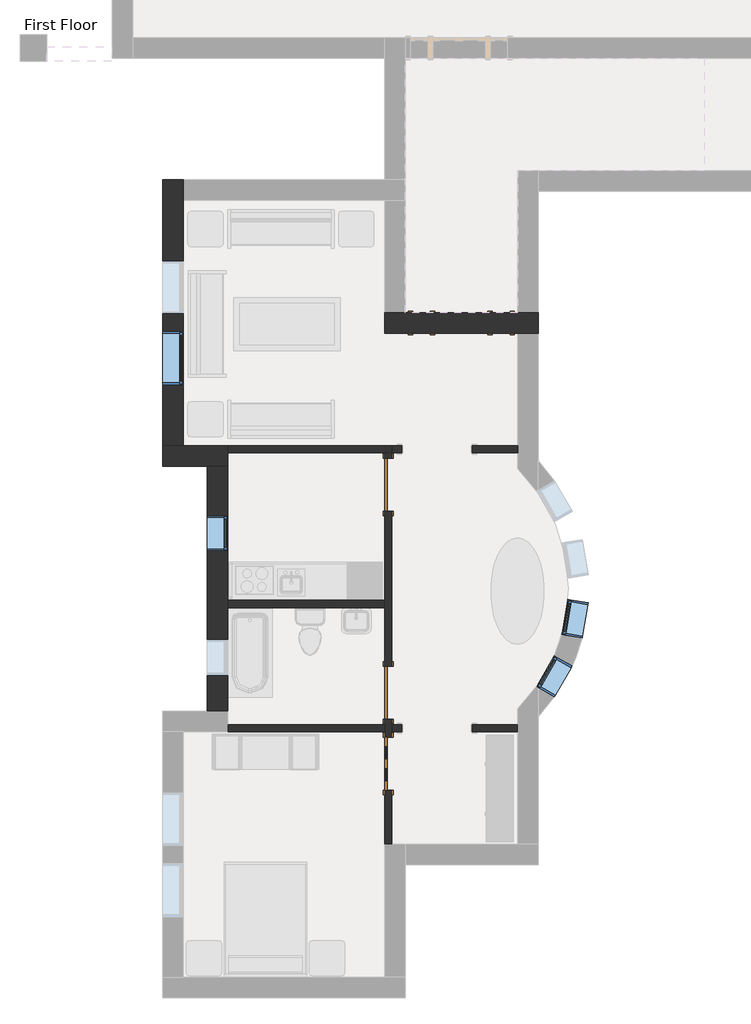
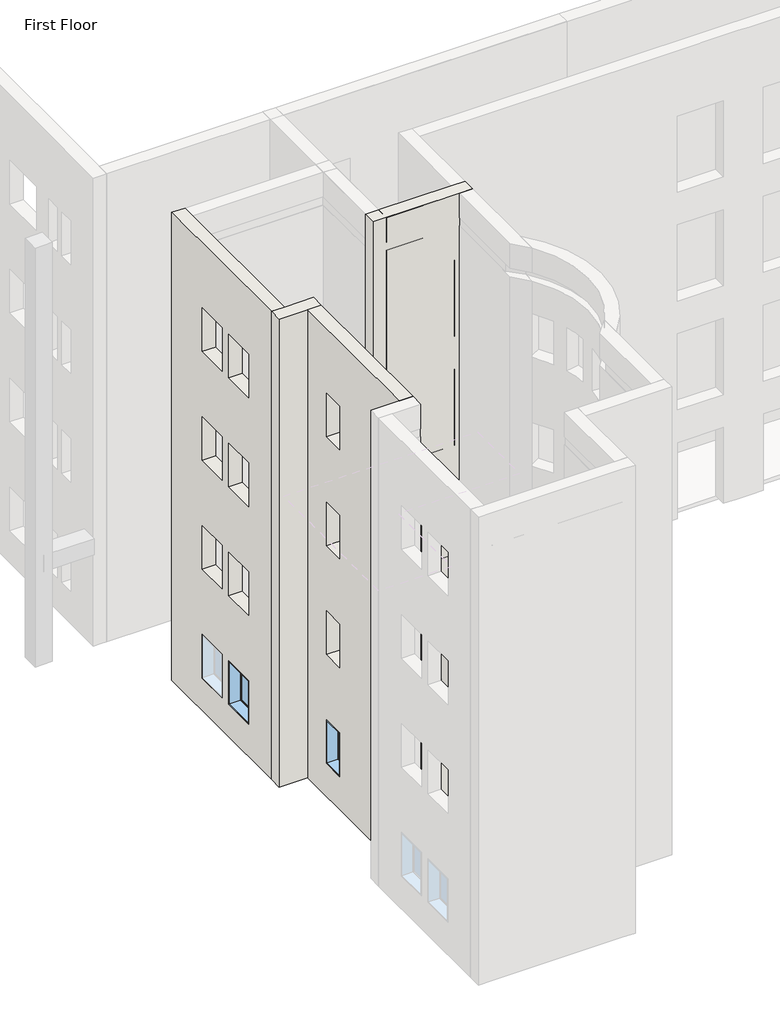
# One storey, part 9 of 24: 11 walls, 4 doors, 4 windows.
"""IFC4 building model written with IfcOpenShell, lengths in millimetres."""

from ifc_helpers import new_model, si_unit, frame, origin, origin_with_axes, place, context, project, spatial, polyline, outline, extrude, faceted_brep, transform, mapped, element, save
from components import door_2e3b4da2, door_a1797ceb, door_a3eb833a, door_dba5aa2e, window_60baf983, window_15c49d37

model = new_model("IFC4")

# Units and contexts
model_context = context("Model", 3, world=origin())
ifc_project = project(units=[si_unit("LENGTHUNIT", "METRE", prefix="MILLI")], contexts=[model_context])

# Site, building, storey
site = spatial("IfcSite", under=ifc_project)
building = spatial("IfcBuilding", under=site)
storey = spatial("IfcBuildingStorey", under=building, Name="First Floor", Elevation=0.0)

# Doors
placement = place(None, origin())
door_shape = door_2e3b4da2(model_context)
element("IfcDoor", 1, ObjectType="Single-Decorative 2 : 36\" x 84\"", at=placement, inside=storey, context=model_context, shape_type="MappedRepresentation", body=[
    mapped(door_shape, transform((-26096.8839563, -7954.4808133, 0.0), x_axis=(0.0, 1.0, 0.0), y_axis=(-1.0, 0.0, 0.0), z_axis=(0.0, 0.0, 1.0))),
])
door_2_shape = door_a1797ceb(model_context)
element("IfcDoor", 2, ObjectType="Single-Flush : 36\" x 84\"", at=placement, inside=storey, context=model_context, shape_type="MappedRepresentation", body=[
    mapped(door_2_shape, transform((-26096.8839563, -3157.0558133, 0.0), x_axis=(0.0, 1.0, 0.0), y_axis=(-1.0, 0.0, 0.0), z_axis=(0.0, 0.0, 1.0))),
])
door_3_shape = door_a3eb833a(model_context)
element("IfcDoor", 3, ObjectType="Single-Flush : 36\" x 84\"", at=placement, inside=storey, context=model_context, shape_type="MappedRepresentation", body=[
    mapped(door_3_shape, transform((-26096.8839563, -6735.2808133, 0.0), x_axis=(0.0, -1.0, 0.0), y_axis=(1.0, 0.0, 0.0), z_axis=(0.0, 0.0, 1.0))),
])
door_4_shape = door_dba5aa2e(model_context)
element("IfcDoor", 4, ObjectType="Single-Raised Panel with Sidelights : 36\" x 84\"", at=placement, inside=storey, context=model_context, shape_type="MappedRepresentation", body=[
    mapped(door_4_shape, transform((-24841.1714563, -374.1683133, 0.0), x_axis=(1.0, 0.0, 0.0), y_axis=(0.0, 1.0, 0.0), z_axis=(0.0, 0.0, 1.0))),
])

# Walls
element("IfcWall", 5, ObjectType="Exterior - Brick on Mtl. Stud", at=placement, inside=storey, context=model_context, shape_type="Brep", body=[
    faceted_brep([(-26160.3839563, -550.3808133, 0.0), (-23874.3839563, -550.3808133, 0.0), (-23521.9589563, -550.3808133, 0.0), (-23521.9589563, -550.3808133, 13106.4), (-23874.3839563, -550.3808133, 13106.4), (-26160.3839563, -550.3808133, 13106.4), (-26160.3839563, -197.9558133, 0.0), (-26160.3839563, -197.9558133, 12192.0), (-26160.3839563, -197.9558133, 12420.6), (-26160.3839563, -197.9558133, 13106.4), (-25807.9589563, -197.9558133, 13106.4), (-23874.3839563, -197.9558133, 13106.4), (-23521.9589563, -197.9558133, 13106.4), (-23521.9589563, -197.9558133, 0.0), (-23874.3839563, -197.9558133, 0.0), (-25807.9589563, -197.9558133, 0.0)], [[[0, 1, 2, 3, 4, 5]], [[6, 7, 8, 9, 10, 11, 12, 13, 14, 15]], [[2, 1, 0, 6, 15, 14, 13]], [[5, 4, 3, 12, 11, 10, 9]], [[3, 2, 13, 12]], [[0, 5, 9, 8, 7, 6]]]),
])
element("IfcWall", 6, ObjectType="Exterior - Brick on Mtl. Stud", at=placement, inside=storey, context=model_context, shape_type="Brep", body=[
    faceted_brep([(-23874.3839563, -550.3808133, 13106.4), (-25807.9589563, -550.3808133, 13106.4), (-25807.9589563, -550.3808133, 12420.6), (-23874.3839563, -550.3808133, 12420.6), (-24002.9714563, -550.3808133, 2133.6), (-24002.9714563, -550.3808133, 0.0), (-23874.3839563, -550.3808133, 0.0), (-23874.3839563, -550.3808133, 12192.0), (-25807.9589563, -550.3808133, 12192.0), (-25807.9589563, -550.3808133, 0.0), (-25679.3714563, -550.3808133, 0.0), (-25679.3714563, -550.3808133, 2133.6), (-24002.9714563, -550.3808133, 9144.0), (-25679.3714563, -550.3808133, 9144.0), (-25679.3714563, -550.3808133, 11277.6), (-24002.9714563, -550.3808133, 11277.6), (-24002.9714563, -550.3808133, 3048.0), (-25679.3714563, -550.3808133, 3048.0), (-25679.3714563, -550.3808133, 5181.6), (-24002.9714563, -550.3808133, 5181.6), (-24002.9714563, -550.3808133, 6096.0), (-25679.3714563, -550.3808133, 6096.0), (-25679.3714563, -550.3808133, 8229.6), (-24002.9714563, -550.3808133, 8229.6), (-25807.9589563, -197.9558133, 13106.4), (-23874.3839563, -197.9558133, 13106.4), (-23874.3839563, -197.9558133, 0.0), (-24002.9714563, -197.9558133, 0.0), (-24002.9714563, -197.9558133, 2133.6), (-25679.3714563, -197.9558133, 2133.6), (-25679.3714563, -197.9558133, 0.0), (-25807.9589563, -197.9558133, 0.0), (-25679.3714563, -197.9558133, 9144.0), (-24002.9714563, -197.9558133, 9144.0), (-24002.9714563, -197.9558133, 11277.6), (-25679.3714563, -197.9558133, 11277.6), (-25679.3714563, -197.9558133, 3048.0), (-24002.9714563, -197.9558133, 3048.0), (-24002.9714563, -197.9558133, 5181.6), (-25679.3714563, -197.9558133, 5181.6), (-25679.3714563, -197.9558133, 6096.0), (-24002.9714563, -197.9558133, 6096.0), (-24002.9714563, -197.9558133, 8229.6), (-25679.3714563, -197.9558133, 8229.6), (-23874.3839563, -537.6808133, 12420.6), (-23874.3839563, -537.6808133, 12192.0), (-25807.9589563, -537.6808133, 12192.0), (-25807.9589563, -537.6808133, 12420.6)], [[[0, 1, 2, 3]], [[4, 5, 6, 7, 8, 9, 10, 11], [12, 13, 14, 15], [16, 17, 18, 19], [20, 21, 22, 23]], [[24, 25, 26, 27, 28, 29, 30, 31], [32, 33, 34, 35], [36, 37, 38, 39], [40, 41, 42, 43]], [[26, 6, 5, 27]], [[9, 31, 30, 10]], [[1, 0, 25, 24]], [[6, 26, 25, 0, 3, 44, 45, 7]], [[1, 24, 31, 9, 8, 46, 47, 2]], [[28, 27, 5, 4]], [[29, 28, 4, 11]], [[30, 29, 11, 10]], [[33, 32, 13, 12]], [[34, 33, 12, 15]], [[35, 34, 15, 14]], [[32, 35, 14, 13]], [[37, 36, 17, 16]], [[38, 37, 16, 19]], [[39, 38, 19, 18]], [[36, 39, 18, 17]], [[41, 40, 21, 20]], [[42, 41, 20, 23]], [[43, 42, 23, 22]], [[40, 43, 22, 21]], [[45, 46, 8, 7]], [[47, 44, 3, 2]], [[46, 45, 44, 47]]]),
])
element("IfcWall", 7, ObjectType="Exterior - Brick on Mtl. Stud", at=placement, inside=storey, context=model_context, shape_type="Brep", body=[
    faceted_brep([(-28855.9589563, -7055.9558133, 0.0), (-28855.9589563, -5274.7808133, 0.0), (-28855.9589563, -5147.7808133, 0.0), (-28855.9589563, -2836.3808133, 0.0), (-28855.9589563, -2836.3808133, 12192.0), (-28855.9589563, -5147.7808133, 12192.0), (-28855.9589563, -5274.7808133, 12192.0), (-28855.9589563, -7055.9558133, 12192.0), (-28855.9589563, -6430.4808133, 7010.4), (-28855.9589563, -6430.4808133, 8229.6), (-28855.9589563, -5820.8808133, 8229.6), (-28855.9589563, -5820.8808133, 7010.4), (-28855.9589563, -4296.8808133, 7010.4), (-28855.9589563, -4296.8808133, 8229.6), (-28855.9589563, -3687.2808133, 8229.6), (-28855.9589563, -3687.2808133, 7010.4), (-28855.9589563, -6430.4808133, 3962.4), (-28855.9589563, -6430.4808133, 5181.6), (-28855.9589563, -5820.8808133, 5181.6), (-28855.9589563, -5820.8808133, 3962.4), (-28855.9589563, -4296.8808133, 3962.4), (-28855.9589563, -4296.8808133, 5181.6), (-28855.9589563, -3687.2808133, 5181.6), (-28855.9589563, -3687.2808133, 3962.4), (-28855.9589563, -6430.4808133, 10058.4), (-28855.9589563, -6430.4808133, 11277.6), (-28855.9589563, -5820.8808133, 11277.6), (-28855.9589563, -5820.8808133, 10058.4), (-28855.9589563, -4296.8808133, 10058.4), (-28855.9589563, -4296.8808133, 11277.6), (-28855.9589563, -3687.2808133, 11277.6), (-28855.9589563, -3687.2808133, 10058.4), (-28855.9589563, -6430.4808133, 914.4), (-28855.9589563, -6430.4808133, 2133.6), (-28855.9589563, -5820.8808133, 2133.6), (-28855.9589563, -5820.8808133, 914.4), (-28855.9589563, -4296.8808133, 914.4), (-28855.9589563, -4296.8808133, 2133.6), (-28855.9589563, -3687.2808133, 2133.6), (-28855.9589563, -3687.2808133, 914.4), (-28855.9589563, -2836.3808133, 13106.4), (-28855.9589563, -7055.9558133, 13106.4), (-28855.9589563, -7055.9558133, 12420.6), (-28855.9589563, -2836.3808133, 12420.6), (-29208.3839563, -2836.3808133, 0.0), (-29208.3839563, -7055.9558133, 0.0), (-29208.3839563, -7055.9558133, 13106.4), (-29208.3839563, -2836.3808133, 13106.4), (-29208.3839563, -6430.4808133, 8229.6), (-29208.3839563, -6430.4808133, 7010.4), (-29208.3839563, -5820.8808133, 7010.4), (-29208.3839563, -5820.8808133, 8229.6), (-29208.3839563, -4296.8808133, 8229.6), (-29208.3839563, -4296.8808133, 7010.4), (-29208.3839563, -3687.2808133, 7010.4), (-29208.3839563, -3687.2808133, 8229.6), (-29208.3839563, -6430.4808133, 5181.6), (-29208.3839563, -6430.4808133, 3962.4), (-29208.3839563, -5820.8808133, 3962.4), (-29208.3839563, -5820.8808133, 5181.6), (-29208.3839563, -4296.8808133, 5181.6), (-29208.3839563, -4296.8808133, 3962.4), (-29208.3839563, -3687.2808133, 3962.4), (-29208.3839563, -3687.2808133, 5181.6), (-29208.3839563, -6430.4808133, 11277.6), (-29208.3839563, -6430.4808133, 10058.4), (-29208.3839563, -5820.8808133, 10058.4), (-29208.3839563, -5820.8808133, 11277.6), (-29208.3839563, -4296.8808133, 11277.6), (-29208.3839563, -4296.8808133, 10058.4), (-29208.3839563, -3687.2808133, 10058.4), (-29208.3839563, -3687.2808133, 11277.6), (-29208.3839563, -6430.4808133, 2133.6), (-29208.3839563, -6430.4808133, 914.4), (-29208.3839563, -5820.8808133, 914.4), (-29208.3839563, -5820.8808133, 2133.6), (-29208.3839563, -4296.8808133, 2133.6), (-29208.3839563, -4296.8808133, 914.4), (-29208.3839563, -3687.2808133, 914.4), (-29208.3839563, -3687.2808133, 2133.6), (-28868.6589563, -7055.9558133, 12192.0), (-28868.6589563, -7055.9558133, 12420.6), (-28868.6589563, -2836.3808133, 12420.6), (-28868.6589563, -2836.3808133, 12192.0)], [[[0, 1, 2, 3, 4, 5, 6, 7], [8, 9, 10, 11], [12, 13, 14, 15], [16, 17, 18, 19], [20, 21, 22, 23], [24, 25, 26, 27], [28, 29, 30, 31], [32, 33, 34, 35], [36, 37, 38, 39]], [[40, 41, 42, 43]], [[44, 45, 46, 47], [48, 49, 50, 51], [52, 53, 54, 55], [56, 57, 58, 59], [60, 61, 62, 63], [64, 65, 66, 67], [68, 69, 70, 71], [72, 73, 74, 75], [76, 77, 78, 79]], [[3, 2, 1, 0, 45, 44]], [[41, 40, 47, 46]], [[41, 46, 45, 0, 7, 80, 81, 42]], [[3, 44, 47, 40, 43, 82, 83, 4]], [[49, 48, 9, 8]], [[50, 49, 8, 11]], [[51, 50, 11, 10]], [[48, 51, 10, 9]], [[53, 52, 13, 12]], [[54, 53, 12, 15]], [[55, 54, 15, 14]], [[52, 55, 14, 13]], [[57, 56, 17, 16]], [[58, 57, 16, 19]], [[59, 58, 19, 18]], [[56, 59, 18, 17]], [[61, 60, 21, 20]], [[62, 61, 20, 23]], [[63, 62, 23, 22]], [[60, 63, 22, 21]], [[65, 64, 25, 24]], [[66, 65, 24, 27]], [[67, 66, 27, 26]], [[64, 67, 26, 25]], [[69, 68, 29, 28]], [[70, 69, 28, 31]], [[71, 70, 31, 30]], [[68, 71, 30, 29]], [[73, 72, 33, 32]], [[74, 73, 32, 35]], [[75, 74, 35, 34]], [[72, 75, 34, 33]], [[77, 76, 37, 36]], [[78, 77, 36, 39]], [[79, 78, 39, 38]], [[76, 79, 38, 37]], [[83, 80, 7, 6, 5, 4]], [[81, 82, 43, 42]], [[80, 83, 82, 81]]]),
])
element("IfcWall", 8, ObjectType="Exterior - Brick on Mtl. Stud", at=placement, inside=storey, context=model_context, shape_type="Brep", body=[
    faceted_brep([(-28855.9589563, -2483.9558133, 0.0), (-29617.9589563, -2483.9558133, 0.0), (-29970.3839563, -2483.9558133, 0.0), (-29970.3839563, -2483.9558133, 13106.4), (-29617.9589563, -2483.9558133, 13106.4), (-28855.9589563, -2483.9558133, 13106.4), (-28855.9589563, -2483.9558133, 12420.6), (-29617.9589563, -2483.9558133, 12420.6), (-29630.6589563, -2483.9558133, 12420.6), (-29630.6589563, -2483.9558133, 12192.0), (-29617.9589563, -2483.9558133, 12192.0), (-28855.9589563, -2483.9558133, 12192.0), (-28855.9589563, -2483.9558133, 9144.0), (-28855.9589563, -2483.9558133, 6096.0), (-28855.9589563, -2483.9558133, 3048.0), (-29970.3839563, -2836.3808133, 0.0), (-29208.3839563, -2836.3808133, 0.0), (-28855.9589563, -2836.3808133, 0.0), (-28855.9589563, -2836.3808133, 12192.0), (-28868.6589563, -2836.3808133, 12192.0), (-28868.6589563, -2836.3808133, 12420.6), (-28855.9589563, -2836.3808133, 12420.6), (-28855.9589563, -2836.3808133, 13106.4), (-29208.3839563, -2836.3808133, 13106.4), (-29970.3839563, -2836.3808133, 13106.4), (-28855.9589563, -2610.9558133, 0.0), (-28855.9589563, -2610.9558133, 12192.0), (-29630.6589563, -2496.6558133, 12192.0), (-28868.6589563, -2496.6558133, 12192.0), (-28868.6589563, -2496.6558133, 12420.6), (-29630.6589563, -2496.6558133, 12420.6)], [[[0, 1, 2, 3, 4, 5, 6, 7, 8, 9, 10, 11, 12, 13, 14]], [[15, 16, 17, 18, 19, 20, 21, 22, 23, 24]], [[2, 1, 0, 25, 17, 16, 15]], [[5, 4, 3, 24, 23, 22]], [[17, 25, 0, 14, 13, 12, 11, 26, 18]], [[5, 22, 21, 6]], [[3, 2, 15, 24]], [[27, 28, 19, 18, 26, 11, 10, 9]], [[29, 30, 8, 7, 6, 21, 20]], [[28, 29, 20, 19]], [[28, 27, 30, 29]], [[30, 27, 9, 8]]]),
])
element("IfcWall", 9, ObjectType="Exterior - Brick on Mtl. Stud", at=placement, inside=storey, context=model_context, shape_type="Brep", body=[
    faceted_brep([(-29617.9589563, -2483.9558133, 0.0), (-29617.9589563, 1735.6191867, 0.0), (-29617.9589563, 2088.0441867, 0.0), (-29617.9589563, 2088.0441867, 13106.4), (-29617.9589563, 1735.6191867, 13106.4), (-29617.9589563, -2483.9558133, 13106.4), (-29617.9589563, -2483.9558133, 12420.6), (-29617.9589563, 1735.6191867, 12420.6), (-29617.9589563, 1748.3191867, 12420.6), (-29617.9589563, 1748.3191867, 12192.0), (-29617.9589563, 1735.6191867, 12192.0), (-29617.9589563, -2483.9558133, 12192.0), (-29617.9589563, -221.7683133, 914.4), (-29617.9589563, -221.7683133, 2133.6), (-29617.9589563, 692.6316867, 2133.6), (-29617.9589563, 692.6316867, 914.4), (-29617.9589563, -1440.9683133, 914.4), (-29617.9589563, -1440.9683133, 2133.6), (-29617.9589563, -526.5683133, 2133.6), (-29617.9589563, -526.5683133, 914.4), (-29617.9589563, -221.7683133, 10058.4), (-29617.9589563, -221.7683133, 11277.6), (-29617.9589563, 692.6316867, 11277.6), (-29617.9589563, 692.6316867, 10058.4), (-29617.9589563, -1440.9683133, 10058.4), (-29617.9589563, -1440.9683133, 11277.6), (-29617.9589563, -526.5683133, 11277.6), (-29617.9589563, -526.5683133, 10058.4), (-29617.9589563, -221.7683133, 3962.4), (-29617.9589563, -221.7683133, 5181.6), (-29617.9589563, 692.6316867, 5181.6), (-29617.9589563, 692.6316867, 3962.4), (-29617.9589563, -1440.9683133, 3962.4), (-29617.9589563, -1440.9683133, 5181.6), (-29617.9589563, -526.5683133, 5181.6), (-29617.9589563, -526.5683133, 3962.4), (-29617.9589563, -221.7683133, 7010.4), (-29617.9589563, -221.7683133, 8229.6), (-29617.9589563, 692.6316867, 8229.6), (-29617.9589563, 692.6316867, 7010.4), (-29617.9589563, -1440.9683133, 7010.4), (-29617.9589563, -1440.9683133, 8229.6), (-29617.9589563, -526.5683133, 8229.6), (-29617.9589563, -526.5683133, 7010.4), (-29970.3839563, 2088.0441867, 0.0), (-29970.3839563, -2483.9558133, 0.0), (-29970.3839563, -2483.9558133, 13106.4), (-29970.3839563, 2088.0441867, 13106.4), (-29970.3839563, -221.7683133, 2133.6), (-29970.3839563, -221.7683133, 914.4), (-29970.3839563, 692.6316867, 914.4), (-29970.3839563, 692.6316867, 2133.6), (-29970.3839563, -1440.9683133, 2133.6), (-29970.3839563, -1440.9683133, 914.4), (-29970.3839563, -526.5683133, 914.4), (-29970.3839563, -526.5683133, 2133.6), (-29970.3839563, -221.7683133, 11277.6), (-29970.3839563, -221.7683133, 10058.4), (-29970.3839563, 692.6316867, 10058.4), (-29970.3839563, 692.6316867, 11277.6), (-29970.3839563, -1440.9683133, 11277.6), (-29970.3839563, -1440.9683133, 10058.4), (-29970.3839563, -526.5683133, 10058.4), (-29970.3839563, -526.5683133, 11277.6), (-29970.3839563, -221.7683133, 5181.6), (-29970.3839563, -221.7683133, 3962.4), (-29970.3839563, 692.6316867, 3962.4), (-29970.3839563, 692.6316867, 5181.6), (-29970.3839563, -1440.9683133, 5181.6), (-29970.3839563, -1440.9683133, 3962.4), (-29970.3839563, -526.5683133, 3962.4), (-29970.3839563, -526.5683133, 5181.6), (-29970.3839563, -221.7683133, 8229.6), (-29970.3839563, -221.7683133, 7010.4), (-29970.3839563, 692.6316867, 7010.4), (-29970.3839563, 692.6316867, 8229.6), (-29970.3839563, -1440.9683133, 8229.6), (-29970.3839563, -1440.9683133, 7010.4), (-29970.3839563, -526.5683133, 7010.4), (-29970.3839563, -526.5683133, 8229.6), (-29630.6589563, -2483.9558133, 12192.0), (-29630.6589563, -2483.9558133, 12420.6), (-29630.6589563, 1748.3191867, 12192.0), (-29630.6589563, 1748.3191867, 12420.6)], [[[0, 1, 2, 3, 4, 5, 6, 7, 8, 9, 10, 11], [12, 13, 14, 15], [16, 17, 18, 19], [20, 21, 22, 23], [24, 25, 26, 27], [28, 29, 30, 31], [32, 33, 34, 35], [36, 37, 38, 39], [40, 41, 42, 43]], [[44, 45, 46, 47], [48, 49, 50, 51], [52, 53, 54, 55], [56, 57, 58, 59], [60, 61, 62, 63], [64, 65, 66, 67], [68, 69, 70, 71], [72, 73, 74, 75], [76, 77, 78, 79]], [[2, 1, 0, 45, 44]], [[5, 4, 3, 47, 46]], [[3, 2, 44, 47]], [[5, 46, 45, 0, 11, 80, 81, 6]], [[49, 48, 13, 12]], [[50, 49, 12, 15]], [[51, 50, 15, 14]], [[48, 51, 14, 13]], [[53, 52, 17, 16]], [[54, 53, 16, 19]], [[55, 54, 19, 18]], [[52, 55, 18, 17]], [[57, 56, 21, 20]], [[58, 57, 20, 23]], [[59, 58, 23, 22]], [[56, 59, 22, 21]], [[61, 60, 25, 24]], [[62, 61, 24, 27]], [[63, 62, 27, 26]], [[60, 63, 26, 25]], [[65, 64, 29, 28]], [[66, 65, 28, 31]], [[67, 66, 31, 30]], [[64, 67, 30, 29]], [[69, 68, 33, 32]], [[70, 69, 32, 35]], [[71, 70, 35, 34]], [[68, 71, 34, 33]], [[73, 72, 37, 36]], [[74, 73, 36, 39]], [[75, 74, 39, 38]], [[72, 75, 38, 37]], [[77, 76, 41, 40]], [[78, 77, 40, 43]], [[79, 78, 43, 42]], [[76, 79, 42, 41]], [[9, 82, 80, 11, 10]], [[81, 83, 8, 7, 6]], [[82, 83, 81, 80]], [[83, 82, 9, 8]]]),
])
element("IfcWall", 10, ObjectType="Interior - 5\" Partition (2-hr)", at=placement, inside=storey, context=model_context, shape_type="Brep", body=[
    faceted_brep([(-28855.9589563, -2610.9558133, 0.0), (-26160.3839563, -2610.9558133, 0.0), (-26033.3839563, -2610.9558133, 0.0), (-26033.3839563, -2610.9558133, 3048.0), (-26160.3839563, -2610.9558133, 3048.0), (-28855.9589563, -2610.9558133, 3048.0), (-28855.9589563, -2483.9558133, 0.0), (-28855.9589563, -2483.9558133, 3048.0), (-26033.3839563, -2483.9558133, 3048.0), (-26033.3839563, -2483.9558133, 0.0)], [[[0, 1, 2, 3, 4, 5]], [[6, 7, 8, 9]], [[2, 1, 0, 6, 9]], [[5, 4, 3, 8, 7]], [[3, 2, 9, 8]], [[0, 5, 7, 6]]]),
])
element("IfcWall", 11, ObjectType="Interior - 5\" Partition (2-hr)", at=placement, inside=storey, context=model_context, shape_type="Brep", body=[
    faceted_brep([(-26033.3839563, -7497.2808133, 2133.6), (-26033.3839563, -7497.2808133, 0.0), (-26033.3839563, -7408.3808133, 0.0), (-26033.3839563, -7281.3808133, 0.0), (-26033.3839563, -7192.4808133, 0.0), (-26033.3839563, -7192.4808133, 2133.6), (-26033.3839563, -6278.0808133, 2133.6), (-26033.3839563, -6278.0808133, 0.0), (-26033.3839563, -3614.2558133, 0.0), (-26033.3839563, -3614.2558133, 2133.6), (-26033.3839563, -2699.8558133, 2133.6), (-26033.3839563, -2699.8558133, 0.0), (-26033.3839563, -2610.9558133, 0.0), (-26033.3839563, -2610.9558133, 3048.0), (-26033.3839563, -7281.3808133, 3048.0), (-26033.3839563, -7408.3808133, 3048.0), (-26033.3839563, -9341.9558133, 3048.0), (-26033.3839563, -9341.9558133, 0.0), (-26033.3839563, -8411.6808133, 0.0), (-26033.3839563, -8411.6808133, 2133.6), (-26160.3839563, -7192.4808133, 0.0), (-26160.3839563, -7281.3808133, 0.0), (-26160.3839563, -7408.3808133, 0.0), (-26160.3839563, -7497.2808133, 0.0), (-26160.3839563, -7497.2808133, 2133.6), (-26160.3839563, -8411.6808133, 2133.6), (-26160.3839563, -8411.6808133, 0.0), (-26160.3839563, -9341.9558133, 0.0), (-26160.3839563, -9341.9558133, 3048.0), (-26160.3839563, -7408.3808133, 3048.0), (-26160.3839563, -7281.3808133, 3048.0), (-26160.3839563, -5274.7808133, 3048.0), (-26160.3839563, -5147.7808133, 3048.0), (-26160.3839563, -2610.9558133, 3048.0), (-26160.3839563, -2610.9558133, 0.0), (-26160.3839563, -2699.8558133, 0.0), (-26160.3839563, -2699.8558133, 2133.6), (-26160.3839563, -3614.2558133, 2133.6), (-26160.3839563, -3614.2558133, 0.0), (-26160.3839563, -5147.7808133, 0.0), (-26160.3839563, -5274.7808133, 0.0), (-26160.3839563, -6278.0808133, 0.0), (-26160.3839563, -6278.0808133, 2133.6), (-26160.3839563, -7192.4808133, 2133.6)], [[[0, 1, 2, 3, 4, 5, 6, 7, 8, 9, 10, 11, 12, 13, 14, 15, 16, 17, 18, 19]], [[20, 21, 22, 23, 24, 25, 26, 27, 28, 29, 30, 31, 32, 33, 34, 35, 36, 37, 38, 39, 40, 41, 42, 43]], [[12, 11, 35, 34]], [[4, 3, 2, 1, 23, 22, 21, 20]], [[41, 40, 39, 38, 8, 7]], [[18, 17, 27, 26]], [[16, 15, 14, 13, 33, 32, 31, 30, 29, 28]], [[17, 16, 28, 27]], [[13, 12, 34, 33]], [[36, 35, 11, 10]], [[37, 36, 10, 9]], [[38, 37, 9, 8]], [[5, 4, 20, 43]], [[6, 5, 43, 42]], [[7, 6, 42, 41]], [[24, 23, 1, 0]], [[25, 24, 0, 19]], [[26, 25, 19, 18]]]),
])
element("IfcWall", 12, ObjectType="Interior - 5\" Partition (2-hr)", at=placement, inside=storey, context=model_context, shape_type="SweptSolid", body=[
    extrude(outline(polyline([(-26160.3839563, -7408.3808133), (-28855.9589563, -7408.3808133), (-28855.9589563, -7281.3808133), (-26160.3839563, -7281.3808133), (-26160.3839563, -7408.3808133)])), origin_with_axes(), (0.0, 0.0, 1.0), 3048.0),
])
element("IfcWall", 13, ObjectType="Interior - 5\" Partition (2-hr)", at=placement, inside=storey, context=model_context, shape_type="SweptSolid", body=[
    extrude(outline(polyline([(-28855.9589563, -5147.7808133), (-26160.3839563, -5147.7808133), (-26160.3839563, -5274.7808133), (-28855.9589563, -5274.7808133), (-28855.9589563, -5147.7808133)])), origin_with_axes(), (0.0, 0.0, 1.0), 3048.0),
])
element("IfcWall", 14, ObjectType="Interior - 5\" Partition (2-hr)", at=placement, inside=storey, context=model_context, shape_type="SweptSolid", body=[
    extrude(outline(polyline([(2133.6, -24649.0839563), (0.0, -24649.0839563), (0.0, -23874.3839563), (3048.0, -23874.3839563), (3048.0, -26033.3839563), (0.0, -26033.3839563), (0.0, -25868.2839563), (2133.6, -25868.2839563), (2133.6, -24649.0839563)])), frame((0.0, -7408.3808133, 0.0), z_axis=(0.0, 1.0, 0.0), x_axis=(0.0, 0.0, 1.0)), (0.0, 0.0, 1.0), 127.0),
])
element("IfcWall", 15, ObjectType="Interior - 5\" Partition (2-hr)", at=placement, inside=storey, context=model_context, shape_type="SweptSolid", body=[
    extrude(outline(polyline([(0.0, -26033.3839563), (0.0, -25868.2839563), (2133.6, -25868.2839563), (2133.6, -24649.0839563), (0.0, -24649.0839563), (0.0, -23874.3839563), (3048.0, -23874.3839563), (3048.0, -26033.3839563), (0.0, -26033.3839563)])), frame((0.0, -2610.9558133, 0.0), z_axis=(0.0, 1.0, 0.0), x_axis=(0.0, 0.0, 1.0)), (0.0, 0.0, 1.0), 127.0),
])

# Windows
window_shape = window_60baf983(model_context)
element("IfcWindow", 16, ObjectType="Fixed : 24\" x 48\"", at=placement, inside=storey, context=model_context, shape_type="MappedRepresentation", body=[
    mapped(window_shape, transform((-29032.1714563, -4030.1808133, 0.0), x_axis=(0.0, -1.0, 0.0), y_axis=(1.0, 0.0, 0.0), z_axis=(0.0, 0.0, 1.0))),
])
element("IfcWindow", 17, ObjectType="Fixed : 24\" x 48\"", at=placement, inside=storey, context=model_context, shape_type="MappedRepresentation", body=[
    mapped(window_shape, transform((-23223.7429238, -6417.4311225, 0.0), x_axis=(0.496191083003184, 0.8682133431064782, 0.0), y_axis=(-0.8682133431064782, 0.496191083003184, 0.0), z_axis=(0.0, 0.0, 1.0))),
])
element("IfcWindow", 18, ObjectType="Fixed : 24\" x 48\"", at=placement, inside=storey, context=model_context, shape_type="MappedRepresentation", body=[
    mapped(window_shape, transform((-22880.6234621, -5423.2119495, 0.0), x_axis=(0.16973229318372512, 0.9854902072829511, 0.0), y_axis=(-0.9854902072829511, 0.16973229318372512, 0.0), z_axis=(0.0, 0.0, 1.0))),
])
window_2_shape = window_15c49d37(model_context)
element("IfcWindow", 19, ObjectType="Fixed : 36\" x 48\"", at=placement, inside=storey, context=model_context, shape_type="MappedRepresentation", body=[
    mapped(window_2_shape, transform((-29794.1714563, -1021.8683133, 0.0), x_axis=(0.0, -1.0, 0.0), y_axis=(1.0, 0.0, 0.0), z_axis=(0.0, 0.0, 1.0))),
])

save(model, "model.ifc")
